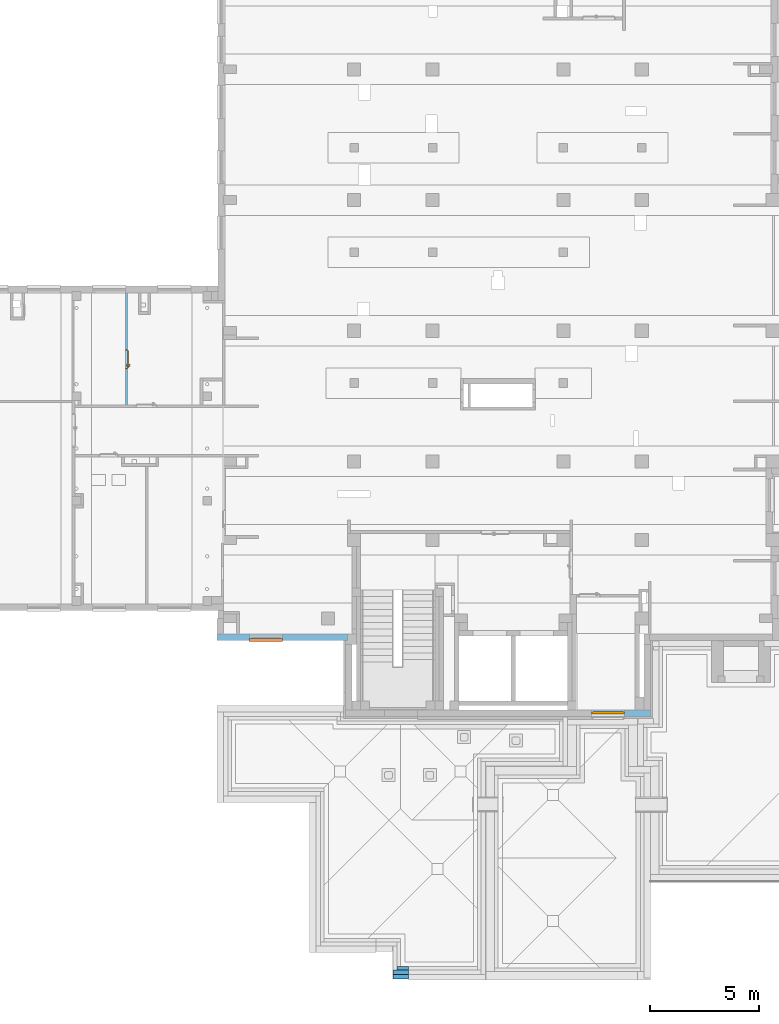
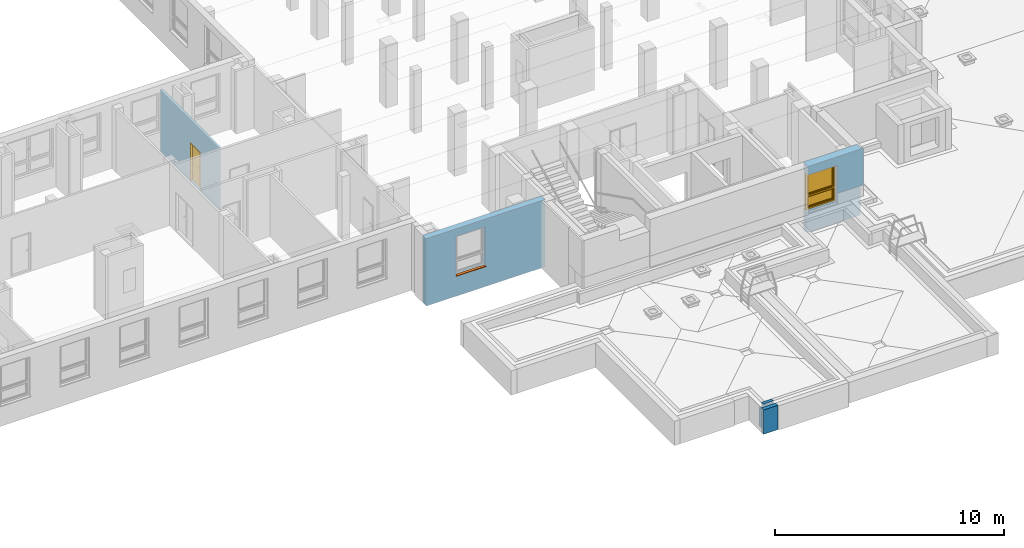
# One storey, part 39 of 50: 1 door, 1 proxy, 1 wall, 1 window, 3 openings, plus 3 elements that do not belong to this part.
"""IFC4 building model written with IfcOpenShell, lengths in metres."""

import ifcopenshell
import ifcopenshell.guid

model = None  # the IFC model being written
_history = None  # IfcOwnerHistory: only IFC2X3 demands one
_inside = {}  # id of a spatial element -> (the spatial element, [elements in it])
_under = {}  # id of a project, library or spatial element -> (it, [spatial elements below it])
_declared = {}  # id of a project -> (the project, [libraries it declares])
_typed = {}  # id of a type object -> (the type object, [elements of that type])
_made_of = {}  # id of a material, layer set ... -> (it, [elements and type objects made of it])


def new_model(schema):
    """Start an empty IFC model of exactly this schema.

    Asked for "IFC4X3", IfcOpenShell would pick the latest addendum, in which some entities
    have other attributes; the version numbers below select the first issue.
    IFC2X3 requires an IfcOwnerHistory on every rooted entity: one is made here for all.
    """
    global model, _history
    if schema == "IFC4X3":
        model = ifcopenshell.file(schema_version=(4, 3, 0, 0))
    else:
        model = ifcopenshell.file(schema=schema)
    _inside.clear()
    _under.clear()
    _declared.clear()
    _typed.clear()
    _made_of.clear()
    _history = None
    if model.schema == "IFC2X3":
        org = make("IfcOrganization", Name="unknown")
        user = make(
            "IfcPersonAndOrganization",
            ThePerson=make("IfcPerson", FamilyName="unknown"),
            TheOrganization=org,
        )
        app = make(
            "IfcApplication",
            ApplicationDeveloper=org,
            Version="unknown",
            ApplicationFullName="unknown",
            ApplicationIdentifier="unknown",
        )
        _history = make(
            "IfcOwnerHistory",
            OwningUser=user,
            OwningApplication=app,
            ChangeAction="ADDED",
            CreationDate=0,
        )
    return model


def make(cls, **values):
    """One entity of the class cls with the attributes given. An attribute that is None is left unset."""
    return model.create_entity(
        cls, **{name: value for name, value in values.items() if value is not None}
    )


def entity(cls, *values):
    """Any entity or typed value of the class cls, its attributes in the order of the schema. None: left unset."""
    e = model.create_entity(cls)
    for i, value in enumerate(values):
        if value is not None:
            e[i] = value
    return e


def rooted(cls, **values):
    """An entity with a GlobalId (a new one), such as an element, a storey or a relation."""
    return make(cls, GlobalId=ifcopenshell.guid.new(), OwnerHistory=_history, **values)


def si_unit(unit_type, name, prefix=None):
    """IfcSIUnit, for example si_unit("LENGTHUNIT", "METRE", prefix="MILLI")."""
    return make("IfcSIUnit", UnitType=unit_type, Prefix=prefix, Name=name)


def converted_unit(unit_type, name, factor, base, dimensions=None, offset=None):
    """IfcConversionBasedUnit, such as the inch: factor (a typed value) times the base unit."""
    return make(
        "IfcConversionBasedUnit"
        if offset is None
        else "IfcConversionBasedUnitWithOffset",
        ConversionOffset=offset,
        Dimensions=None
        if dimensions is None
        else entity("IfcDimensionalExponents", *dimensions),
        UnitType=unit_type,
        Name=name,
        ConversionFactor=make(
            "IfcMeasureWithUnit", ValueComponent=factor, UnitComponent=base
        ),
    )


def derived_unit(unit_type, elements):
    """IfcDerivedUnit: a product of units, each with its exponent."""
    return make(
        "IfcDerivedUnit",
        Elements=[
            make("IfcDerivedUnitElement", Unit=unit, Exponent=power)
            for unit, power in elements
        ],
        UnitType=unit_type,
    )


def assignment(units):
    """IfcUnitAssignment: the units of a project."""
    return None if units is None else make("IfcUnitAssignment", Units=units)


def point(xyz):
    """IfcCartesianPoint."""
    return None if xyz is None else make("IfcCartesianPoint", Coordinates=xyz)


def direction(xyz):
    """IfcDirection."""
    return None if xyz is None else make("IfcDirection", DirectionRatios=xyz)


def frame(location, z_axis=None, x_axis=None):
    """IfcAxis2Placement3D, a coordinate frame: its origin and axes. An axis left out is left unset."""
    return make(
        "IfcAxis2Placement3D",
        Location=point(location),
        Axis=direction(z_axis),
        RefDirection=direction(x_axis),
    )


def frame_2d(location, x_axis=None):
    """IfcAxis2Placement2D, a coordinate frame in the plane: its origin and x axis."""
    return make(
        "IfcAxis2Placement2D", Location=point(location), RefDirection=direction(x_axis)
    )


def origin():
    """The frame at (0, 0, 0) with its axes left unset."""
    return frame((0.0, 0.0, 0.0))


def origin_with_axes():
    """The frame at (0, 0, 0) with the z axis (0, 0, 1) and the x axis (1, 0, 0) written out."""
    return frame((0.0, 0.0, 0.0), z_axis=(0.0, 0.0, 1.0), x_axis=(1.0, 0.0, 0.0))


def place(relative_to, where):
    """IfcLocalPlacement: puts the frame where relative to a parent placement (None: the world)."""
    return make(
        "IfcLocalPlacement", PlacementRelTo=relative_to, RelativePlacement=where
    )


def context(
    kind, dimensions, precision=None, world=None, true_north=None, identifier=None
):
    """IfcGeometricRepresentationContext, for example the 3D "Model" context."""
    return make(
        "IfcGeometricRepresentationContext",
        ContextIdentifier=identifier,
        ContextType=kind,
        CoordinateSpaceDimension=dimensions,
        Precision=precision,
        WorldCoordinateSystem=world,
        TrueNorth=true_north,
    )


def subcontext(parent, identifier, kind, view, scale=None):
    """IfcGeometricRepresentationSubContext, for example "Body" below "Model"."""
    return make(
        "IfcGeometricRepresentationSubContext",
        ContextIdentifier=identifier,
        ContextType=kind,
        ParentContext=parent,
        TargetScale=scale,
        TargetView=view,
    )


def project(units=None, contexts=None):
    """IfcProject with its units and contexts."""
    return rooted(
        "IfcProject",
        Name="project",
        RepresentationContexts=contexts,
        UnitsInContext=assignment(units),
    )


def spatial(cls, under=None, at=None, **own):
    """A site, building, storey or space (cls), placed at a placement, below another one or the project."""
    s = rooted(cls, ObjectPlacement=at, **own)
    if under is not None:
        _under.setdefault(under.id(), (under, []))[1].append(s)
    return s


def polyline(points):
    """IfcPolyline through the points."""
    return make("IfcPolyline", Points=[point(p) for p in points])


def profile(cls, at=None, kind="AREA", **sizes):
    """A parametric profile (cls). Its sizes go by their IFC names, for example OverallWidth=200.0."""
    return make(cls, ProfileType=kind, Position=at, **sizes)


def rectangle(**sizes):
    """IfcRectangleProfileDef."""
    return profile("IfcRectangleProfileDef", **sizes)


def outline(outer, holes=None, kind="AREA"):
    """IfcArbitraryClosedProfileDef: a profile drawn as a closed curve; with holes, ...WithVoids."""
    if holes is None:
        return make("IfcArbitraryClosedProfileDef", ProfileType=kind, OuterCurve=outer)
    return make(
        "IfcArbitraryProfileDefWithVoids",
        ProfileType=kind,
        OuterCurve=outer,
        InnerCurves=holes,
    )


def extrude(swept, where, along, depth):
    """IfcExtrudedAreaSolid: the profile swept, set in the frame where, extruded along a direction by depth."""
    return make(
        "IfcExtrudedAreaSolid",
        SweptArea=swept,
        Position=where,
        ExtrudedDirection=direction(along),
        Depth=depth,
    )


def clip(a, b, op="DIFFERENCE"):
    """IfcBooleanClippingResult: the solid a cut by the half space b."""
    return make(
        "IfcBooleanClippingResult", Operator=op, FirstOperand=a, SecondOperand=b
    )


def bounded_halfspace(plane, agree, where, boundary):
    """IfcPolygonalBoundedHalfSpace: a half space limited to a polygon's prism."""
    return make(
        "IfcPolygonalBoundedHalfSpace",
        BaseSurface=make("IfcPlane", Position=plane),
        AgreementFlag=agree,
        Position=where,
        PolygonalBoundary=boundary,
    )


def faces_of(points, faces, orient=None, outer=None):
    """IfcFace entities. A face is a list of loops; a loop is a list of indices into points, from 0.

    orient and outer hold one flag for each loop. By default every Orientation is true, the
    first loop of a face is its IfcFaceOuterBound and the others are IfcFaceBound.
    """
    made = []
    for i, loops in enumerate(faces):
        bounds = []
        for j, loop in enumerate(loops):
            is_outer = j == 0 if outer is None else outer[i][j]
            bounds.append(
                make(
                    "IfcFaceOuterBound" if is_outer else "IfcFaceBound",
                    Bound=make("IfcPolyLoop", Polygon=[points[k] for k in loop]),
                    Orientation=True if orient is None else orient[i][j],
                )
            )
        made.append(make("IfcFace", Bounds=bounds))
    return made


def closed_shell(faces, orient=None, outer=None):
    """The faces of one IfcClosedShell. faceted_brep and surface_model build it on their shared points."""
    return ("IfcClosedShell", faces, orient, outer)


def open_shell(faces, orient=None, outer=None):
    """The faces of one IfcOpenShell. surface_model builds it on its shared points."""
    return ("IfcOpenShell", faces, orient, outer)


def faceted_brep(points, faces, orient=None, outer=None, voids=None):
    """IfcFacetedBrep: a solid bounded by flat faces; with voids (closed shells), ...WithVoids."""
    shared = [point(p) for p in points]
    hull = make("IfcClosedShell", CfsFaces=faces_of(shared, faces, orient, outer))
    if voids is None:
        return make("IfcFacetedBrep", Outer=hull)
    return make(
        "IfcFacetedBrepWithVoids",
        Outer=hull,
        Voids=[
            make(cls, CfsFaces=faces_of(shared, fs, o, b)) for cls, fs, o, b in voids
        ],
    )


def surface_model(cls, points, shells):
    """IfcFaceBasedSurfaceModel or IfcShellBasedSurfaceModel (cls): surfaces that need not close."""
    shared = [point(p) for p in points]
    made = [make(c, CfsFaces=faces_of(shared, fs, o, b)) for c, fs, o, b in shells]
    if cls == "IfcFaceBasedSurfaceModel":
        return make(cls, FbsmFaces=made)
    return make(cls, SbsmBoundary=made)


def shape(context_of_items, identifier, shape_type, items):
    """IfcShapeRepresentation: the items that make up one representation, for example the "Body"."""
    return make(
        "IfcShapeRepresentation",
        ContextOfItems=context_of_items,
        RepresentationIdentifier=identifier,
        RepresentationType=shape_type,
        Items=items,
    )


def source(mapping_origin, context_of_items, identifier, shape_type, items):
    """IfcRepresentationMap: a shape defined once, which mapped items show again and again."""
    return make(
        "IfcRepresentationMap",
        MappingOrigin=mapping_origin,
        MappedRepresentation=shape(context_of_items, identifier, shape_type, items),
    )


def transform(
    local_origin,
    x_axis=None,
    y_axis=None,
    z_axis=None,
    scale=None,
    scale2=None,
    scale3=None,
    uniform=True,
):
    """IfcCartesianTransformationOperator3D, or its non-uniform kind. x_axis, y_axis, z_axis: its Axis1, 2, 3."""
    if uniform:
        return make(
            "IfcCartesianTransformationOperator3D",
            Axis1=direction(x_axis),
            Axis2=direction(y_axis),
            LocalOrigin=point(local_origin),
            Scale=scale,
            Axis3=direction(z_axis),
        )
    return make(
        "IfcCartesianTransformationOperator3DnonUniform",
        Axis1=direction(x_axis),
        Axis2=direction(y_axis),
        LocalOrigin=point(local_origin),
        Scale=scale,
        Axis3=direction(z_axis),
        Scale2=scale2,
        Scale3=scale3,
    )


def mapped(mapping_source, mapping_target):
    """IfcMappedItem: shows the shape of a source again, moved by a transform."""
    return make(
        "IfcMappedItem", MappingSource=mapping_source, MappingTarget=mapping_target
    )


def material(Name=None, Category=None):
    """IfcMaterial."""
    return make("IfcMaterial", Name=Name, Category=Category)


def layer(
    of_material, thickness, ventilated=None, Name=None, Category=None, Priority=None
):
    """IfcMaterialLayer: one layer of a wall or slab, of a material (None: an air gap)."""
    return make(
        "IfcMaterialLayer",
        Material=of_material,
        LayerThickness=thickness,
        IsVentilated=ventilated,
        Name=Name,
        Category=Category,
        Priority=Priority,
    )


def layer_set(layers, Name=None):
    """IfcMaterialLayerSet."""
    return make("IfcMaterialLayerSet", MaterialLayers=layers, LayerSetName=Name)


def layer_usage(for_layer_set, set_direction, sense, offset, extent=None):
    """IfcMaterialLayerSetUsage: how a layer set lies in its element."""
    return make(
        "IfcMaterialLayerSetUsage",
        ForLayerSet=for_layer_set,
        LayerSetDirection=set_direction,
        DirectionSense=sense,
        OffsetFromReferenceLine=offset,
        ReferenceExtent=extent,
    )


def made_of(thing, what):
    """Note that an element or type object is made of a material, layer set ...; save() writes the relation."""
    if what is not None:
        _made_of.setdefault(what.id(), (what, []))[1].append(thing)
    return thing


def type_object(cls, material=None, **own):
    """A type object (cls), such as IfcWallType, which elements share."""
    return made_of(rooted(cls, **own), material)


def element(
    cls,
    number,
    at=None,
    inside=None,
    cuts=None,
    type_object=None,
    material=None,
    context=None,
    identifier="Body",
    shape_type=None,
    held_by="IfcProductDefinitionShape",
    body=None,
    shapes=None,
    **own,
):
    """One element of the class cls, such as IfcWall. Its Tag is "e" and its number.

    at: its placement. inside: the storey or other place that contains it. cuts: it is an
    opening in that element (IfcRelVoidsElement). A single representation is given by context,
    identifier, shape_type and body (its items); several are given by shapes. held_by: the class
    of the entity that holds the representations. save() writes the other relations.
    """
    e = rooted(cls, Tag="e%d" % number, ObjectPlacement=at, **own)
    if body is not None:
        shapes = [shape(context, identifier, shape_type, body)]
    if shapes is not None:
        e.Representation = make(held_by, Representations=shapes)
    if inside is not None:
        _inside.setdefault(inside.id(), (inside, []))[1].append(e)
    if cuts is not None:
        rooted(
            "IfcRelVoidsElement", RelatingBuildingElement=cuts, RelatedOpeningElement=e
        )
    if type_object is not None:
        _typed.setdefault(type_object.id(), (type_object, []))[1].append(e)
    return made_of(e, material)


def fill(opening, filler):
    """IfcRelFillsElement: the door or window that sits in an opening."""
    return rooted(
        "IfcRelFillsElement",
        RelatingOpeningElement=opening,
        RelatedBuildingElement=filler,
    )


def aggregate(whole, parts):
    """IfcRelAggregates: a whole, such as a stair, and the parts it consists of."""
    return rooted("IfcRelAggregates", RelatingObject=whole, RelatedObjects=parts)


def save(model, path):
    """Write the relations noted so far, then the file.

    IfcRelAggregates (storeys below a building ...), IfcRelContainedInSpatialStructure (elements
    in a storey), IfcRelDefinesByType, IfcRelAssociatesMaterial and IfcRelDeclares: one each for
    every whole, place, type object, material and project.
    """
    for whole, parts in _under.values():
        aggregate(whole, parts)
    for where, things in _inside.values():
        rooted(
            "IfcRelContainedInSpatialStructure",
            RelatedElements=things,
            RelatingStructure=where,
        )
    for kind, things in _typed.values():
        rooted("IfcRelDefinesByType", RelatedObjects=things, RelatingType=kind)
    for what, things in _made_of.values():
        rooted("IfcRelAssociatesMaterial", RelatedObjects=things, RelatingMaterial=what)
    for by, libraries in _declared.values():
        rooted("IfcRelDeclares", RelatingContext=by, RelatedDefinitions=libraries)
    model.write(path)


model = new_model("IFC4")

# Units and contexts
model_context = context("Model", 3, precision=1e-05, world=origin())
body_context = subcontext(model_context, "Body", "Model", "MODEL_VIEW")
ifc_project = project(units=[si_unit("LENGTHUNIT", "METRE"), si_unit("AREAUNIT", "SQUARE_METRE"), si_unit("VOLUMEUNIT", "CUBIC_METRE"), si_unit("MASSUNIT", "GRAM", prefix="KILO"), converted_unit("PLANEANGLEUNIT", "DEGREE", entity("IfcPlaneAngleMeasure", 0.0174532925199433), si_unit("PLANEANGLEUNIT", "RADIAN"), dimensions=[0, 0, 0, 0, 0, 0, 0]), derived_unit("THERMALTRANSMITTANCEUNIT", [(si_unit("POWERUNIT", "WATT"), 1), (si_unit("THERMODYNAMICTEMPERATUREUNIT", "KELVIN"), -1), (si_unit("LENGTHUNIT", "METRE"), -2)]), derived_unit("VOLUMETRICFLOWRATEUNIT", [(si_unit("LENGTHUNIT", "METRE"), 3), (converted_unit("TIMEUNIT", "hour", entity("IfcTimeMeasure", 3600.0), si_unit("TIMEUNIT", "SECOND"), dimensions=[0, 0, 1, 0, 0, 0, 0]), -1), (si_unit("LENGTHUNIT", "METRE"), -1)])], contexts=[model_context])

# Site, building, storey
site_placement = place(None, origin())
site = spatial("IfcSite", under=ifc_project, at=site_placement, Name="3. ASŘ", CompositionType="ELEMENT")
building_placement = place(site_placement, origin())
building = spatial("IfcBuilding", under=site, at=building_placement, Name="Pavilon C", CompositionType="ELEMENT")
storey_placement = place(building_placement, frame((0.0, 0.0, 3.6)))
storey = spatial("IfcBuildingStorey", under=building, at=storey_placement, Name="Půdorys 2.NP", CompositionType="ELEMENT", Elevation=3.6)

# Wall, opening, proxy
ifc_material_1 = material(Name="ZELEZOBETONOVÁ KCE")
ifc_layer_1 = layer(ifc_material_1, 0.3)
ifc_layer_set_1 = layer_set([ifc_layer_1])
ifc_layer_usage_1 = layer_usage(ifc_layer_set_1, "AXIS2", "POSITIVE", 0.0)
wall_1_placement = place(storey_placement, frame((24.45, -1.02, -0.1)))
wall_1 = element("IfcWall", 1, at=wall_1_placement, inside=storey, material=ifc_layer_usage_1, Name="ZELEZOBETONOVÁ KCE", context=body_context, shape_type="SweptSolid", body=[
    extrude(rectangle(XDim=6.0, YDim=0.3, at=frame_2d((3.0, 0.15), x_axis=(1.0, 0.0))), origin_with_axes(), (0.0, 0.0, 1.0), 3.6),
])
opening_1_placement = place(wall_1_placement, frame((1.5, 0.0, 1.1), z_axis=(0.0, 1.0, 0.0), x_axis=(0.0, 0.0, 1.0)))
opening_1 = element("IfcOpeningElement", 2, at=opening_1_placement, cuts=wall_1, Name="Okenní otvor", ObjectType="Opening", context=body_context, shape_type="SweptSolid", body=[
    extrude(outline(polyline([(0.0, 1.5), (2.1, 1.5), (2.1, 0.0), (0.0, 0.0), (0.0, 1.5)])), origin_with_axes(), (0.0, 0.0, 1.0), 0.3),
])
ifc_material_2 = material(Name="PLECH")
shared_shape_1 = source(origin_with_axes(), body_context, "Body", "Brep", [
    faceted_brep([(0.0, 0.0, 0.0), (0.0, 0.1, 0.0), (0.0, 0.1, 0.005), (0.0, 0.0, 0.005), (1.5, 0.0, 0.0), (1.5, 0.0, 0.005), (1.5, 0.1, 0.005), (1.5, 0.1, 0.0), (-0.02, 0.0, 0.0), (-0.02, -0.035, 0.0), (1.52, -0.035, 0.0), (1.52, 0.0, 0.0), (1.52, 0.0, 0.005), (1.52, -0.04, 0.005), (-0.02, -0.04, 0.005), (-0.02, 0.0, 0.005), (-0.02, -0.04, -0.025), (-0.02, -0.035, -0.025), (1.52, -0.035, -0.025), (1.52, -0.04, -0.025)], [[[0, 1, 2, 3]], [[4, 5, 6, 7]], [[1, 0, 8, 9, 10, 11, 4, 7]], [[2, 1, 7, 6]], [[3, 2, 6, 5, 12, 13, 14, 15]], [[8, 15, 14, 16, 17, 9]], [[11, 10, 18, 19, 13, 12]], [[15, 8, 0, 3]], [[5, 4, 11, 12]], [[16, 14, 13, 19]], [[17, 16, 19, 18]], [[9, 17, 18, 10]]], orient=[[False], [False], [False], [False], [False], [False], [False], [False], [False], [False], [False], [False]]),
    faceted_brep([(-0.02, 0.0, 0.0), (-0.02, 0.1, 0.0), (-0.02, 0.1, 0.005), (-0.02, 0.0, 0.005), (0.0, 0.0, 0.0), (0.0, 0.0, 0.005), (0.0, 0.1, 0.005), (0.0, 0.1, 0.0)], [[[0, 1, 2, 3]], [[4, 5, 6, 7]], [[1, 0, 4, 7]], [[2, 1, 7, 6]], [[3, 2, 6, 5]], [[0, 3, 5, 4]]], orient=[[False], [False], [False], [False], [False], [False]]),
    faceted_brep([(1.5, 0.0, 0.0), (1.5, 0.1, 0.0), (1.5, 0.1, 0.005), (1.5, 0.0, 0.005), (1.52, 0.0, 0.0), (1.52, 0.0, 0.005), (1.52, 0.1, 0.005), (1.52, 0.1, 0.0)], [[[0, 1, 2, 3]], [[4, 5, 6, 7]], [[1, 0, 4, 7]], [[2, 1, 7, 6]], [[3, 2, 6, 5]], [[0, 3, 5, 4]]], orient=[[False], [False], [False], [False], [False], [False]]),
])
proxy_placement = place(opening_1_placement, frame((0.0, 0.0, 0.0), z_axis=(1.0, 0.0, 0.0), x_axis=(0.0, 1.0, 0.0)))
proxy = element("IfcBuildingElementProxy", 3, at=proxy_placement, inside=storey, material=ifc_material_2, Name="Parapet vnější", context=body_context, shape_type="MappedRepresentation", body=[
    mapped(shared_shape_1, transform((0.0, 0.0, 0.0), x_axis=(1.0, 0.0, 0.0), y_axis=(0.0, 1.0, 0.0), z_axis=(0.0, 0.0, 1.0), scale=1.0)),
])
fill(opening_1, proxy)

# Wall, opening, door
ifc_material_3 = material(Name="PÓROBETONOVÉ ZDIVO")
ifc_layer_2 = layer(ifc_material_3, 0.1)
ifc_layer_set_2 = layer_set([ifc_layer_2])
ifc_layer_usage_2 = layer_usage(ifc_layer_set_2, "AXIS2", "POSITIVE", 0.0)
wall_2_placement = place(storey_placement, frame((20.25, 14.93, -0.1), z_axis=(0.0, 0.0, 1.0), x_axis=(0.0, -1.0, 0.0)))
wall_2 = element("IfcWall", 4, at=wall_2_placement, inside=storey, material=ifc_layer_usage_2, Name="PÓROBETONOVÉ ZDIVO", context=body_context, shape_type="SweptSolid", body=[
    extrude(rectangle(XDim=5.13, YDim=0.1, at=frame_2d((2.565, 0.05), x_axis=(1.0, 0.0))), origin_with_axes(), (0.0, 0.0, 1.0), 3.35),
])
opening_2_placement = place(wall_2_placement, frame((3.48, 0.1, 0.1), z_axis=(0.0, -1.0, 0.0), x_axis=(0.0, 0.0, 1.0)))
opening_2 = element("IfcOpeningElement", 5, at=opening_2_placement, cuts=wall_2, Name="Dveřní otvor", ObjectType="Opening", context=body_context, shape_type="SweptSolid", body=[
    extrude(outline(polyline([(0.0, 0.9), (2.02, 0.9), (2.02, 0.0), (0.0, 0.0), (0.0, 0.9)])), origin_with_axes(), (0.0, 0.0, 1.0), 0.1),
])
door_type = type_object("IfcDoorType", Name="D101", OperationType="NOTDEFINED", ParameterTakesPrecedence=False, PredefinedType="DOOR")
shared_shape_2 = source(origin_with_axes(), body_context, "Body", "SurfaceModel", [
    surface_model("IfcShellBasedSurfaceModel", [(0.0, 0.1, 2.02), (0.0, 0.1, -6.12323399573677e-18), (0.05, 0.1, -6.12323399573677e-18), (0.05, 0.1, 2.02), (0.0, 0.0, 6.12323399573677e-18), (0.0, 2.41584530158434e-16, 2.02), (0.05, 2.41584530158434e-16, 2.02), (0.05, 0.0, 6.12323399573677e-18)], [closed_shell([[[0, 1, 2, 3]], [[4, 5, 6, 7]], [[1, 0, 5, 4]], [[2, 1, 4, 7]], [[3, 2, 7, 6]], [[0, 3, 6, 5]]], orient=[[False], [False], [False], [False], [False], [False]])]),
    surface_model("IfcShellBasedSurfaceModel", [(0.85, 0.1, 2.02), (0.85, 0.1, -6.12323399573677e-18), (0.9, 0.1, -6.12323399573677e-18), (0.9, 0.1, 2.02), (0.85, 0.0, 6.12323399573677e-18), (0.85, 2.41584530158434e-16, 2.02), (0.9, 2.41584530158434e-16, 2.02), (0.9, 0.0, 6.12323399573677e-18)], [closed_shell([[[0, 1, 2, 3]], [[4, 5, 6, 7]], [[1, 0, 5, 4]], [[2, 1, 4, 7]], [[3, 2, 7, 6]], [[0, 3, 6, 5]]], orient=[[False], [False], [False], [False], [False], [False]])]),
    surface_model("IfcShellBasedSurfaceModel", [(0.05, 0.1, 2.02), (0.05, 0.1, 1.97), (0.85, 0.1, 1.97), (0.85, 0.1, 2.02), (0.05, 2.41584530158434e-16, 1.97), (0.05, 2.41584530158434e-16, 2.02), (0.85, 2.41584530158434e-16, 2.02), (0.85, 2.41584530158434e-16, 1.97)], [closed_shell([[[0, 1, 2, 3]], [[4, 5, 6, 7]], [[1, 0, 5, 4]], [[2, 1, 4, 7]], [[3, 2, 7, 6]], [[0, 3, 6, 5]]], orient=[[False], [False], [False], [False], [False], [False]])]),
    surface_model("IfcShellBasedSurfaceModel", [(0.05, 0.14, 1.97), (0.05, 0.14, -1.10218211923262e-17), (0.85, 0.14, -1.10218211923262e-17), (0.85, 0.14, 1.97), (0.05, 0.1, -6.12323399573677e-18), (0.05, 0.1, 1.97), (0.85, 0.1, 1.97), (0.85, 0.1, -6.12323399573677e-18)], [closed_shell([[[0, 1, 2, 3]], [[4, 5, 6, 7]], [[1, 0, 5, 4]], [[2, 1, 4, 7]], [[3, 2, 7, 6]], [[0, 3, 6, 5]]], orient=[[False], [False], [False], [False], [False], [False]])]),
    surface_model("IfcShellBasedSurfaceModel", [(0.76, 0.1, 1.125), (0.76, 0.1, 0.91), (0.81, 0.1, 0.91), (0.81, 0.1, 1.125), (0.76, 0.0900000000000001, 0.91), (0.76, 0.0900000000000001, 1.125), (0.81, 0.0900000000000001, 1.125), (0.81, 0.0900000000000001, 0.91)], [closed_shell([[[0, 1, 2, 3]], [[4, 5, 6, 7]], [[1, 0, 5, 4]], [[2, 1, 4, 7]], [[3, 2, 7, 6]], [[0, 3, 6, 5]]], orient=[[False], [False], [False], [False], [False], [False]])]),
    surface_model("IfcShellBasedSurfaceModel", [(0.785, 0.0900000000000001, 1.06), (0.78, 0.0900000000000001, 1.05866025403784), (0.776339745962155, 0.0900000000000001, 1.055), (0.775, 0.0900000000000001, 1.05), (0.776339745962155, 0.0900000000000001, 1.045), (0.78, 0.0900000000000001, 1.04133974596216), (0.785, 0.0900000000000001, 1.04), (0.79, 0.0900000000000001, 1.04133974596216), (0.793660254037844, 0.0900000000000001, 1.045), (0.795, 0.0900000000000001, 1.05), (0.793660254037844, 0.0900000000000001, 1.055), (0.79, 0.0900000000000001, 1.05866025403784), (0.79, 0.0450000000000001, 1.05866025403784), (0.785, 0.0500000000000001, 1.06), (0.793660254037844, 0.0413397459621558, 1.055), (0.795, 0.0400000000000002, 1.05), (0.793660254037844, 0.0413397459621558, 1.045), (0.79, 0.0450000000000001, 1.04133974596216), (0.785, 0.0500000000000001, 1.04), (0.78, 0.0550000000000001, 1.04133974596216), (0.776339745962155, 0.0586602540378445, 1.045), (0.775, 0.0600000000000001, 1.05), (0.776339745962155, 0.0586602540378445, 1.055), (0.78, 0.0550000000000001, 1.05866025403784), (0.67, 0.0450000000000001, 1.05866025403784), (0.67, 0.0500000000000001, 1.06), (0.67, 0.0413397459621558, 1.055), (0.67, 0.0400000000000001, 1.05), (0.67, 0.0413397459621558, 1.045), (0.67, 0.0450000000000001, 1.04133974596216), (0.67, 0.0500000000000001, 1.04), (0.67, 0.0550000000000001, 1.04133974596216), (0.67, 0.0586602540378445, 1.045), (0.67, 0.0600000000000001, 1.05), (0.67, 0.0586602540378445, 1.055), (0.67, 0.0550000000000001, 1.05866025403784)], [open_shell([[[0, 1, 2, 3, 4, 5, 6, 7, 8, 9, 10, 11]], [[0, 11, 12, 13]], [[11, 10, 14, 12]], [[10, 9, 15, 14]], [[9, 8, 16, 15]], [[8, 7, 17, 16]], [[7, 6, 18, 17]], [[6, 5, 19, 18]], [[5, 4, 20, 19]], [[4, 3, 21, 20]], [[3, 2, 22, 21]], [[2, 1, 23, 22]], [[1, 0, 13, 23]], [[13, 12, 24, 25]], [[12, 14, 26, 24]], [[14, 15, 27, 26]], [[15, 16, 28, 27]], [[16, 17, 29, 28]], [[17, 18, 30, 29]], [[18, 19, 31, 30]], [[19, 20, 32, 31]], [[20, 21, 33, 32]], [[21, 22, 34, 33]], [[22, 23, 35, 34]], [[23, 13, 25, 35]]], orient=[[False], [False], [False], [False], [False], [False], [False], [False], [False], [False], [False], [False], [False], [False], [False], [False], [False], [False], [False], [False], [False], [False], [False], [False], [False]])]),
    surface_model("IfcShellBasedSurfaceModel", [(0.76, 0.14, 1.125), (0.81, 0.14, 1.125), (0.81, 0.14, 0.91), (0.76, 0.14, 0.91), (0.76, 0.15, 0.91), (0.81, 0.15, 0.91), (0.81, 0.15, 1.125), (0.76, 0.15, 1.125)], [closed_shell([[[0, 1, 2, 3]], [[4, 5, 6, 7]], [[3, 4, 7, 0]], [[2, 5, 4, 3]], [[1, 6, 5, 2]], [[0, 7, 6, 1]]], orient=[[False], [False], [False], [False], [False], [False]])]),
    surface_model("IfcShellBasedSurfaceModel", [(0.785, 0.15, 1.06), (0.79, 0.15, 1.05866025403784), (0.793660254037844, 0.15, 1.055), (0.795, 0.15, 1.05), (0.793660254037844, 0.15, 1.045), (0.79, 0.15, 1.04133974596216), (0.785, 0.15, 1.04), (0.78, 0.15, 1.04133974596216), (0.776339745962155, 0.15, 1.045), (0.775, 0.15, 1.05), (0.776339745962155, 0.15, 1.055), (0.78, 0.15, 1.05866025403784), (0.785, 0.19, 1.06), (0.79, 0.195, 1.05866025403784), (0.793660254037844, 0.198660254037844, 1.055), (0.795, 0.2, 1.05), (0.793660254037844, 0.198660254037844, 1.045), (0.79, 0.195, 1.04133974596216), (0.785, 0.19, 1.04), (0.78, 0.185, 1.04133974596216), (0.776339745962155, 0.181339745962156, 1.045), (0.775, 0.18, 1.05), (0.776339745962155, 0.181339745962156, 1.055), (0.78, 0.185, 1.05866025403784), (0.67, 0.19, 1.06), (0.67, 0.195, 1.05866025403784), (0.67, 0.198660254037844, 1.055), (0.67, 0.2, 1.05), (0.67, 0.198660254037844, 1.045), (0.67, 0.195, 1.04133974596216), (0.67, 0.19, 1.04), (0.67, 0.185, 1.04133974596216), (0.67, 0.181339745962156, 1.045), (0.67, 0.18, 1.05), (0.67, 0.181339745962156, 1.055), (0.67, 0.185, 1.05866025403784)], [open_shell([[[0, 1, 2, 3, 4, 5, 6, 7, 8, 9, 10, 11]], [[0, 12, 13, 1]], [[1, 13, 14, 2]], [[2, 14, 15, 3]], [[3, 15, 16, 4]], [[4, 16, 17, 5]], [[5, 17, 18, 6]], [[6, 18, 19, 7]], [[7, 19, 20, 8]], [[8, 20, 21, 9]], [[9, 21, 22, 10]], [[10, 22, 23, 11]], [[11, 23, 12, 0]], [[12, 24, 25, 13]], [[13, 25, 26, 14]], [[14, 26, 27, 15]], [[15, 27, 28, 16]], [[16, 28, 29, 17]], [[17, 29, 30, 18]], [[18, 30, 31, 19]], [[19, 31, 32, 20]], [[20, 32, 33, 21]], [[21, 33, 34, 22]], [[22, 34, 35, 23]], [[23, 35, 24, 12]]], orient=[[False], [False], [False], [False], [False], [False], [False], [False], [False], [False], [False], [False], [False], [False], [False], [False], [False], [False], [False], [False], [False], [False], [False], [False], [False]])]),
])
door_placement = place(opening_2_placement, frame((0.0, 0.899999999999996, 0.100000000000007), z_axis=(1.0, 0.0, 0.0), x_axis=(0.0, -1.0, 2.44929359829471e-16)))
door = element("IfcDoor", 6, at=door_placement, inside=storey, type_object=door_type, Name="D101", OverallHeight=2.02, OverallWidth=0.9, context=body_context, shape_type="MappedRepresentation", body=[
    mapped(shared_shape_2, transform((0.0, 0.0, 0.0), x_axis=(1.0, 0.0, 0.0), y_axis=(0.0, 1.0, 0.0), z_axis=(0.0, 0.0, 1.0), scale=1.0)),
])
fill(opening_2, door)

# Wall, opening, window
ifc_material_4 = material(Name="EPS")
ifc_layer_3 = layer(ifc_material_4, 0.1)
ifc_material_5 = material(Name="ZELEZOBETONOVÁ KCE")
ifc_layer_4 = layer(ifc_material_5, 0.3)
ifc_layer_set_3 = layer_set([ifc_layer_3, ifc_layer_4])
ifc_layer_usage_3 = layer_usage(ifc_layer_set_3, "AXIS2", "POSITIVE", -0.1)
wall_3_placement = place(storey_placement, frame((41.65, -4.6, -0.1)))
wall_3 = element("IfcWall", 7, at=wall_3_placement, inside=storey, material=ifc_layer_usage_3, Name="ZELEZOBETONOVÁ KCE", context=body_context, shape_type="Clipping", body=[
    clip(extrude(outline(polyline([(0.0, 0.0), (2.8, 0.0), (2.8, 0.1), (2.7, 0.1), (2.7, 0.4), (0.0, 0.4), (0.0, 0.0)])), origin_with_axes(), (0.0, 0.0, 1.0), 3.6), bounded_halfspace(frame((1.66, 0.06, 1.65), z_axis=(0.0, 0.0, 1.0), x_axis=(-1.0, 0.0, 0.0)), True, origin_with_axes(), polyline([(2.7, 0.1), (0.0, 0.1), (0.0, 0.0), (2.8, 0.0), (2.8, 0.1), (2.7, 0.1)]))),
])
opening_3_placement = place(wall_3_placement, frame((0.0, 0.0, 1.15), z_axis=(0.0, 1.0, 0.0), x_axis=(0.0, 0.0, 1.0)))
opening_3 = element("IfcOpeningElement", 8, at=opening_3_placement, cuts=wall_3, Name="Okenní otvor", ObjectType="Opening", context=body_context, shape_type="SweptSolid", body=[
    extrude(outline(polyline([(0.0, 1.5), (2.0, 1.5), (2.0, 0.0), (0.0, 0.0), (0.0, 1.5)])), origin_with_axes(), (0.0, 0.0, 1.0), 0.1),
    extrude(outline(polyline([(0.0, 1.5), (2.0, 1.5), (2.0, 0.0), (0.0, 0.0), (0.0, 1.5)])), frame((0.0, 0.0, 0.1), z_axis=(0.0, 0.0, 1.0), x_axis=(1.0, 0.0, 0.0)), (0.0, 0.0, 1.0), 0.3),
])
shared_shape_3 = source(origin_with_axes(), body_context, "Body", "SurfaceModel", [
    surface_model("IfcShellBasedSurfaceModel", [(0.0, 0.182, 2.0), (0.0, 0.182, -5.63337527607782e-18), (0.08, 0.182, -5.63337527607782e-18), (0.08, 0.182, 2.0), (0.0, 0.0899999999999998, 5.63337527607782e-18), (0.0, 0.0900000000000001, 2.0), (0.08, 0.0900000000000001, 2.0), (0.08, 0.0899999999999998, 5.63337527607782e-18)], [closed_shell([[[0, 1, 2, 3]], [[4, 5, 6, 7]], [[1, 0, 5, 4]], [[2, 1, 4, 7]], [[3, 2, 7, 6]], [[0, 3, 6, 5]]], orient=[[False], [False], [False], [False], [False], [False]])]),
    surface_model("IfcShellBasedSurfaceModel", [(1.42, 0.182, 2.0), (1.42, 0.182, -5.63337527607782e-18), (1.5, 0.182, -5.63337527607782e-18), (1.5, 0.182, 2.0), (1.42, 0.0899999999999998, 5.63337527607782e-18), (1.42, 0.0900000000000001, 2.0), (1.5, 0.0900000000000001, 2.0), (1.5, 0.0899999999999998, 5.63337527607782e-18)], [closed_shell([[[0, 1, 2, 3]], [[4, 5, 6, 7]], [[1, 0, 5, 4]], [[2, 1, 4, 7]], [[3, 2, 7, 6]], [[0, 3, 6, 5]]], orient=[[False], [False], [False], [False], [False], [False]])]),
    surface_model("IfcShellBasedSurfaceModel", [(0.08, 0.182, 0.08), (0.08, 0.182, -5.63337527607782e-18), (1.42, 0.182, -5.63337527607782e-18), (1.42, 0.182, 0.08), (0.08, 0.0899999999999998, 5.63337527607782e-18), (0.08, 0.0899999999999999, 0.08), (1.42, 0.0899999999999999, 0.08), (1.42, 0.0899999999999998, 5.63337527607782e-18)], [closed_shell([[[0, 1, 2, 3]], [[4, 5, 6, 7]], [[1, 0, 5, 4]], [[2, 1, 4, 7]], [[3, 2, 7, 6]], [[0, 3, 6, 5]]], orient=[[False], [False], [False], [False], [False], [False]])]),
    surface_model("IfcShellBasedSurfaceModel", [(0.08, 0.182, 2.0), (0.08, 0.182, 1.92), (1.42, 0.182, 1.92), (1.42, 0.182, 2.0), (0.08, 0.0900000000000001, 1.92), (0.08, 0.0900000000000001, 2.0), (1.42, 0.0900000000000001, 2.0), (1.42, 0.0900000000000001, 1.92)], [closed_shell([[[0, 1, 2, 3]], [[4, 5, 6, 7]], [[1, 0, 5, 4]], [[2, 1, 4, 7]], [[3, 2, 7, 6]], [[0, 3, 6, 5]]], orient=[[False], [False], [False], [False], [False], [False]])]),
    surface_model("IfcShellBasedSurfaceModel", [(0.08, 0.182, 0.76), (0.08, 0.182, 0.68), (1.42, 0.182, 0.68), (1.42, 0.182, 0.76), (0.08, 0.0899999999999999, 0.68), (0.08, 0.0899999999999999, 0.76), (1.42, 0.0899999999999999, 0.76), (1.42, 0.0899999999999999, 0.68)], [closed_shell([[[0, 1, 2, 3]], [[4, 5, 6, 7]], [[1, 0, 5, 4]], [[2, 1, 4, 7]], [[3, 2, 7, 6]], [[0, 3, 6, 5]]], orient=[[False], [False], [False], [False], [False], [False]])]),
    surface_model("IfcShellBasedSurfaceModel", [(0.05, 0.145, 0.71), (0.05, 0.145, 0.05), (0.13, 0.145, 0.05), (0.13, 0.145, 0.71), (0.05, 0.0599999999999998, 0.05), (0.05, 0.0599999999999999, 0.71), (0.13, 0.0599999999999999, 0.71), (0.13, 0.0599999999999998, 0.05)], [closed_shell([[[0, 1, 2, 3]], [[4, 5, 6, 7]], [[1, 0, 5, 4]], [[2, 1, 4, 7]], [[3, 2, 7, 6]], [[0, 3, 6, 5]]], orient=[[False], [False], [False], [False], [False], [False]])]),
    surface_model("IfcShellBasedSurfaceModel", [(1.37, 0.145, 0.71), (1.37, 0.145, 0.05), (1.45, 0.145, 0.05), (1.45, 0.145, 0.71), (1.37, 0.0599999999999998, 0.05), (1.37, 0.0599999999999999, 0.71), (1.45, 0.0599999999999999, 0.71), (1.45, 0.0599999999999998, 0.05)], [closed_shell([[[0, 1, 2, 3]], [[4, 5, 6, 7]], [[1, 0, 5, 4]], [[2, 1, 4, 7]], [[3, 2, 7, 6]], [[0, 3, 6, 5]]], orient=[[False], [False], [False], [False], [False], [False]])]),
    surface_model("IfcShellBasedSurfaceModel", [(0.13, 0.145, 0.13), (0.13, 0.145, 0.05), (1.37, 0.145, 0.05), (1.37, 0.145, 0.13), (0.13, 0.0599999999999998, 0.05), (0.13, 0.0599999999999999, 0.13), (1.37, 0.0599999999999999, 0.13), (1.37, 0.0599999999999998, 0.05)], [closed_shell([[[0, 1, 2, 3]], [[4, 5, 6, 7]], [[1, 0, 5, 4]], [[2, 1, 4, 7]], [[3, 2, 7, 6]], [[0, 3, 6, 5]]], orient=[[False], [False], [False], [False], [False], [False]])]),
    surface_model("IfcShellBasedSurfaceModel", [(0.13, 0.145, 0.71), (0.13, 0.145, 0.63), (1.37, 0.145, 0.63), (1.37, 0.145, 0.71), (0.13, 0.0599999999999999, 0.63), (0.13, 0.0599999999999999, 0.71), (1.37, 0.0599999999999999, 0.71), (1.37, 0.0599999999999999, 0.63)], [closed_shell([[[0, 1, 2, 3]], [[4, 5, 6, 7]], [[1, 0, 5, 4]], [[2, 1, 4, 7]], [[3, 2, 7, 6]], [[0, 3, 6, 5]]], orient=[[False], [False], [False], [False], [False], [False]])]),
    surface_model("IfcShellBasedSurfaceModel", [(0.05, 0.145, 1.95), (0.05, 0.145, 0.73), (0.13, 0.145, 0.73), (0.13, 0.145, 1.95), (0.05, 0.0599999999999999, 0.73), (0.05, 0.0600000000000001, 1.95), (0.13, 0.0600000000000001, 1.95), (0.13, 0.0599999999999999, 0.73)], [closed_shell([[[0, 1, 2, 3]], [[4, 5, 6, 7]], [[1, 0, 5, 4]], [[2, 1, 4, 7]], [[3, 2, 7, 6]], [[0, 3, 6, 5]]], orient=[[False], [False], [False], [False], [False], [False]])]),
    surface_model("IfcShellBasedSurfaceModel", [(1.37, 0.145, 1.95), (1.37, 0.145, 0.73), (1.45, 0.145, 0.73), (1.45, 0.145, 1.95), (1.37, 0.0599999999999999, 0.73), (1.37, 0.0600000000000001, 1.95), (1.45, 0.0600000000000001, 1.95), (1.45, 0.0599999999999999, 0.73)], [closed_shell([[[0, 1, 2, 3]], [[4, 5, 6, 7]], [[1, 0, 5, 4]], [[2, 1, 4, 7]], [[3, 2, 7, 6]], [[0, 3, 6, 5]]], orient=[[False], [False], [False], [False], [False], [False]])]),
    surface_model("IfcShellBasedSurfaceModel", [(0.13, 0.145, 0.81), (0.13, 0.145, 0.73), (1.37, 0.145, 0.73), (1.37, 0.145, 0.81), (0.13, 0.0599999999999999, 0.73), (0.13, 0.0599999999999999, 0.81), (1.37, 0.0599999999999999, 0.81), (1.37, 0.0599999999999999, 0.73)], [closed_shell([[[0, 1, 2, 3]], [[4, 5, 6, 7]], [[1, 0, 5, 4]], [[2, 1, 4, 7]], [[3, 2, 7, 6]], [[0, 3, 6, 5]]], orient=[[False], [False], [False], [False], [False], [False]])]),
    surface_model("IfcShellBasedSurfaceModel", [(0.13, 0.145, 1.95), (0.13, 0.145, 1.87), (1.37, 0.145, 1.87), (1.37, 0.145, 1.95), (0.13, 0.0600000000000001, 1.87), (0.13, 0.0600000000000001, 1.95), (1.37, 0.0600000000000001, 1.95), (1.37, 0.0600000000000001, 1.87)], [closed_shell([[[0, 1, 2, 3]], [[4, 5, 6, 7]], [[1, 0, 5, 4]], [[2, 1, 4, 7]], [[3, 2, 7, 6]], [[0, 3, 6, 5]]], orient=[[False], [False], [False], [False], [False], [False]])]),
    surface_model("IfcShellBasedSurfaceModel", [(0.0775, 0.06, 1.36), (0.0775, 0.06, 1.32), (0.1025, 0.06, 1.32), (0.1025, 0.06, 1.36), (0.0775, 0.05, 1.32), (0.0775, 0.05, 1.36), (0.1025, 0.05, 1.36), (0.1025, 0.05, 1.32)], [closed_shell([[[0, 1, 2, 3]], [[4, 5, 6, 7]], [[1, 0, 5, 4]], [[2, 1, 4, 7]], [[3, 2, 7, 6]], [[0, 3, 6, 5]]], orient=[[False], [False], [False], [False], [False], [False]])]),
    surface_model("IfcShellBasedSurfaceModel", [(0.1, 0.05, 1.34), (0.0986602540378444, 0.05, 1.345), (0.095, 0.05, 1.34866025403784), (0.09, 0.05, 1.35), (0.085, 0.05, 1.34866025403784), (0.0813397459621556, 0.05, 1.345), (0.08, 0.05, 1.34), (0.0813397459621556, 0.05, 1.335), (0.085, 0.05, 1.33133974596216), (0.09, 0.05, 1.33), (0.095, 0.05, 1.33133974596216), (0.0986602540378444, 0.05, 1.335), (0.1, 0.01, 1.34), (0.0986602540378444, 0.00500000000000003, 1.345), (0.095, 0.00133974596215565, 1.34866025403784), (0.09, 2.8421709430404e-17, 1.35), (0.085, 0.00133974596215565, 1.34866025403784), (0.0813397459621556, 0.00500000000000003, 1.345), (0.08, 0.01, 1.34), (0.0813397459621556, 0.015, 1.335), (0.085, 0.0186602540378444, 1.33133974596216), (0.09, 0.02, 1.33), (0.095, 0.0186602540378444, 1.33133974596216), (0.0986602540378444, 0.015, 1.335), (0.1, 0.01, 1.225), (0.0986602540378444, 0.005, 1.225), (0.095, 0.00133974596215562, 1.225), (0.09, 0.0, 1.225), (0.085, 0.00133974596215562, 1.225), (0.0813397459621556, 0.005, 1.225), (0.08, 0.01, 1.225), (0.0813397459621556, 0.015, 1.225), (0.085, 0.0186602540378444, 1.225), (0.09, 0.02, 1.225), (0.095, 0.0186602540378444, 1.225), (0.0986602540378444, 0.015, 1.225)], [open_shell([[[0, 1, 2, 3, 4, 5, 6, 7, 8, 9, 10, 11]], [[0, 12, 13, 1]], [[1, 13, 14, 2]], [[2, 14, 15, 3]], [[3, 15, 16, 4]], [[4, 16, 17, 5]], [[5, 17, 18, 6]], [[6, 18, 19, 7]], [[7, 19, 20, 8]], [[8, 20, 21, 9]], [[9, 21, 22, 10]], [[10, 22, 23, 11]], [[11, 23, 12, 0]], [[12, 24, 25, 13]], [[13, 25, 26, 14]], [[14, 26, 27, 15]], [[15, 27, 28, 16]], [[16, 28, 29, 17]], [[17, 29, 30, 18]], [[18, 30, 31, 19]], [[19, 31, 32, 20]], [[20, 32, 33, 21]], [[21, 33, 34, 22]], [[22, 34, 35, 23]], [[23, 35, 24, 12]]], orient=[[False], [False], [False], [False], [False], [False], [False], [False], [False], [False], [False], [False], [False], [False], [False], [False], [False], [False], [False], [False], [False], [False], [False], [False], [False]])]),
    surface_model("IfcShellBasedSurfaceModel", [(0.13, 0.1025, 0.13), (1.37, 0.1025, 0.13), (1.37, 0.1025, 0.63), (0.13, 0.1025, 0.63)], [open_shell([[[0, 1, 2, 3]]], orient=[[False]])]),
    surface_model("IfcShellBasedSurfaceModel", [(0.13, 0.1025, 0.81), (1.37, 0.1025, 0.81), (1.37, 0.1025, 1.87), (0.13, 0.1025, 1.87)], [open_shell([[[0, 1, 2, 3]]], orient=[[False]])]),
])
window_placement = place(opening_3_placement, frame((0.0, 0.0, 0.382), z_axis=(1.0, 0.0, 0.0), x_axis=(0.0, 1.0, -1.22464679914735e-16)))
window = element("IfcWindow", 9, at=window_placement, inside=storey, Name="O06", OverallHeight=2.0, OverallWidth=1.5, PartitioningType="USERDEFINED", PredefinedType="WINDOW", context=body_context, shape_type="MappedRepresentation", body=[
    mapped(shared_shape_3, transform((0.0, 0.0, 0.0), x_axis=(1.0, 0.0, 0.0), y_axis=(0.0, -1.0, 0.0), z_axis=(0.0, 0.0, 1.0), scale=1.0)),
])
fill(opening_3, window)

# Wall
ifc_material_6 = material(Name="EPS")
wall_4_placement = place(storey_placement, frame((32.52, -16.545, -0.35)))
element("IfcWall", 10, at=wall_4_placement, inside=storey, material=ifc_material_6, Name="MINERÁLNÍ VATA", context=body_context, shape_type="Brep", body=[
    faceted_brep([(0.730000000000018, 0.0, 0.0), (1.45519152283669e-14, 0.0, 0.0), (1.45519152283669e-14, 0.0, 1.3), (0.730000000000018, 0.0, 1.3), (1.45519152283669e-14, 0.2, 0.0), (0.730000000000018, 0.2, 0.0), (1.45519152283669e-14, 0.2, 1.3), (0.730000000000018, 0.2, 1.3), (1.45519152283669e-14, 0.2, 1.2), (1.45519152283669e-14, 0.2, 0.2), (1.45519152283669e-14, 0.149999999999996, 0.2), (1.45519152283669e-14, 0.149999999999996, 1.2), (0.730000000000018, 0.2, 1.2), (0.729999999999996, 0.4, 1.2), (0.729999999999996, 0.399999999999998, 1.3), (0.729999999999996, 0.559999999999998, 1.3), (0.729999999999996, 0.559999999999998, 0.46), (0.729999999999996, 0.4, 0.46), (0.729999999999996, 0.4, 0.2), (0.730000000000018, 0.2, 0.2), (0.2, 0.2, 1.2), (0.2, 0.2, 0.2), (0.2, 0.149999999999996, 0.2), (0.2, 0.149999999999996, 1.2), (-3.63797880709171e-15, 0.4, 0.2), (-3.63797880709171e-15, 0.4, 1.2), (0.199999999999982, 0.399999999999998, 0.46), (0.199999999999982, 0.4, 1.2), (0.199999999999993, 0.399999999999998, 1.3), (0.199999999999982, 0.559999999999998, 0.46), (0.199999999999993, 0.559999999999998, 1.3)], [[[0, 1, 2, 3]], [[4, 1, 0, 5]], [[2, 6, 7, 3]], [[8, 6, 2, 1, 4, 9, 10, 11]], [[12, 13, 14, 15, 16, 17, 18, 19, 5, 0, 3, 7]], [[7, 6, 8, 20, 12]], [[9, 4, 5, 19, 21]], [[11, 10, 22, 23]], [[21, 22, 10, 9]], [[8, 11, 23, 20]], [[23, 22, 21, 20]], [[9, 8, 20, 21]], [[9, 24, 25, 8]], [[24, 9, 21, 19, 18]], [[24, 18, 17, 26, 27, 25]], [[20, 8, 25, 27, 13, 12]], [[28, 27, 26, 29, 30]], [[30, 29, 16, 15]], [[28, 14, 13, 27]], [[15, 14, 28, 30]], [[26, 17, 16, 29]]], orient=[[False], [False], [False], [False], [False], [False], [False], [False], [False], [False], [False], [False], [False], [False], [False], [False], [False], [False], [False], [False], [False]]),
])

save(model, "model.ifc")
